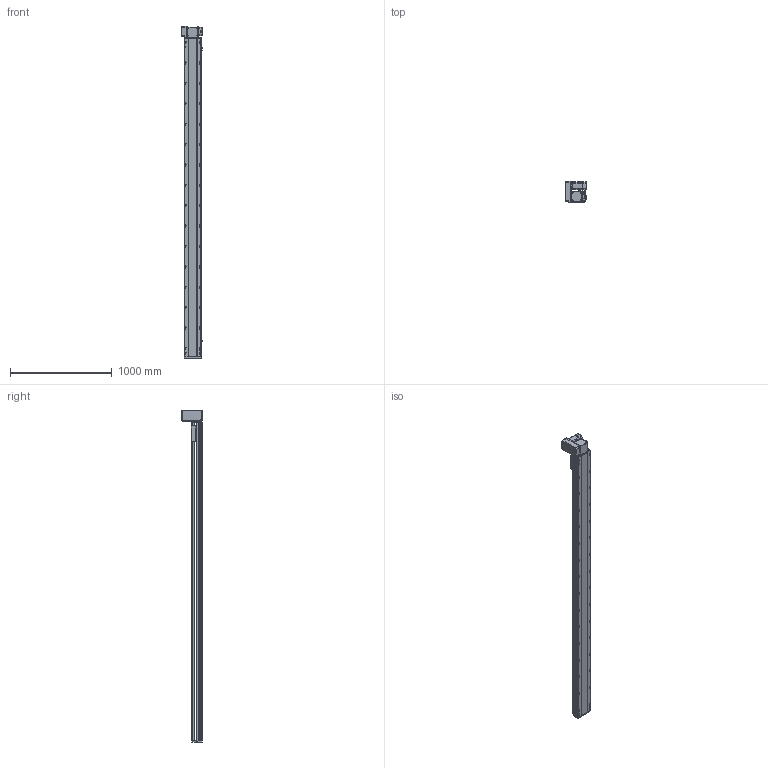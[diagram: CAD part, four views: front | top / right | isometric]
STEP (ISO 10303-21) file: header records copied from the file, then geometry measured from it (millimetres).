
FILE_DESCRIPTION (( 'STEP AP214' ), '1' );
FILE_NAME ('RTB17S-XX-2850-LW-M75-C4.STEP', '2025-12-12T01:19:20', ( '' ), ( '' ), 'SwSTEP 2.0', 'SolidWorks 2018', '' );
FILE_SCHEMA (( 'AUTOMOTIVE_DESIGN' ));
Length unit declared in the file: millimetre
Products named in the file (15): RTB17S-L-001-耜醱啣^RTB17S-XX-XX-LW-M75-C4; RTB17S-L-004-賑釱^RTB17S-賑釱_RTB17S-XX-XX-LW-M75-C4; RTB22S-GY-008-M75--萇儂啣^RTB17S-LW-々湍釱蚾饜-750W_RTB17S-XX-XX-LW-M75-C4; RTB17S-XX-2850-LW-M75-C4; RTB17S-L-014-T20-P75--々湍釱^RTB17S-LW-々湍釱蚾饜-750W_RTB17S-XX-XX-LW-M75-C4; 750W萇儂^RTB17S-XX-XX-LW-M75-C4; RTB22S-GY-017P^RTB17S-LW-々湍釱蚾饜-750W_RTB17S-XX-XX-LW-M75-C4; RTB17S-賑釱^RTB17S-XX-XX-LW-M75-C4; RTB17S-L-007奻裔^RTB17S-XX-XX-LW-M75-C4; RTB22S-GY-005P^RTB17S-LW-々湍釱蚾饜-750W_RTB17S-XX-XX-LW-M75-C4; RTB17S-LW-々湍釱蚾饜-750W^RTB17S-XX-XX-LW-M75-C4; RTH13-BL-012覜茼え俋离^RTB17S-賑釱_RTB17S-XX-XX-LW-M75-C4; EE672^RTB17S-XX-XX-LW-M75-C4; RTB22S-GY-018P^RTB17S-LW-々湍釱蚾饜-750W_RTB17S-XX-XX-LW-M75-C4; RTB17-R-011菁釱^RTB17S-XX-XX-LW-M75-C4
Assembly tree (17 placements, depth 3):
  RTB17S-XX-2850-LW-M75-C4
    RTB17-R-011菁釱^RTB17S-XX-XX-LW-M75-C4
    EE672^RTB17S-XX-XX-LW-M75-C4  x3
    RTB17S-L-001-耜醱啣^RTB17S-XX-XX-LW-M75-C4
    RTB17S-賑釱^RTB17S-XX-XX-LW-M75-C4
      RTB17S-L-004-賑釱^RTB17S-賑釱_RTB17S-XX-XX-LW-M75-C4
      RTH13-BL-012覜茼え俋离^RTB17S-賑釱_RTB17S-XX-XX-LW-M75-C4
    RTB17S-L-007奻裔^RTB17S-XX-XX-LW-M75-C4
    750W萇儂^RTB17S-XX-XX-LW-M75-C4
    RTB17S-LW-々湍釱蚾饜-750W^RTB17S-XX-XX-LW-M75-C4
      RTB17S-L-014-T20-P75--々湍釱^RTB17S-LW-々湍釱蚾饜-750W_RTB17S-XX-XX-LW-M75-C4
      RTB22S-GY-005P^RTB17S-LW-々湍釱蚾饜-750W_RTB17S-XX-XX-LW-M75-C4
      RTB22S-GY-017P^RTB17S-LW-々湍釱蚾饜-750W_RTB17S-XX-XX-LW-M75-C4  x2
      RTB22S-GY-008-M75--萇儂啣^RTB17S-LW-々湍釱蚾饜-750W_RTB17S-XX-XX-LW-M75-C4
      RTB22S-GY-018P^RTB17S-LW-々湍釱蚾饜-750W_RTB17S-XX-XX-LW-M75-C4
Bounding box: 210.4 x 201.5 x 3257.5 mm (x, y, z)
Volume: 23760540.7 mm3; surface area: 4345126.7 mm2
Topology: 17 solids, 17 shells, 2249 faces, 6322 edges, 4094 vertices
Faces by surface type: plane 990, cylinder 843, bspline 294, cone 110, sphere 8, torus 4
Entity records: 65782 total; most frequent: CARTESIAN_POINT 19586, ORIENTED_EDGE 9488, DIRECTION 8762, EDGE_CURVE 4744, AXIS2_PLACEMENT_3D 3114, VERTEX_POINT 3098, VECTOR 2534, LINE 2534
